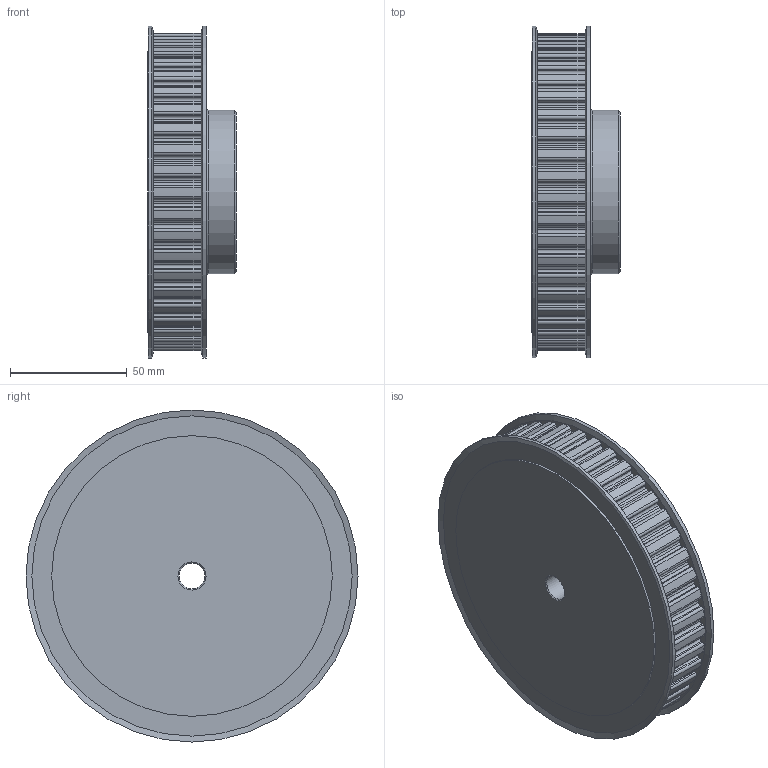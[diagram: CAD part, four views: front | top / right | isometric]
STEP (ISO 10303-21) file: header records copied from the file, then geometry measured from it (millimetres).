
FILE_DESCRIPTION(/* description */ ('PULEGGE 45 L 075 F'),/* implementation_level */ '2;1');
FILE_NAME(/* name */ 'w:\documenti\Disegni dwg\Catalogo\Pulegge\L\075\stp\42075045.stp',/* time_stamp */ '2023-05-18T13:47:14+02:00',/* author */ ('carlo.bersi'),/* organization */ (''),/* preprocessor_version */ 'ST-DEVELOPER v19',/* originating_system */ 'Autodesk Inventor 2023',/* authorisation */ '');
FILE_SCHEMA (('CONFIG_CONTROL_DESIGN'));
Length unit declared in the file: millimetre
Products named in the file (3): 42075045; 42075045_1; 49200081
Assembly tree (3 placements, depth 2):
  42075045
    42075045_1
    49200081  x2
Bounding box: 38 x 142 x 142 mm (x, y, z)
Volume: 401199 mm3; surface area: 65855.7 mm2
Topology: 3 solids, 3 shells, 385 faces, 1121 edges, 745 vertices
Faces by surface type: cylinder 233, plane 144, cone 7, torus 1
Full cylindrical faces by diameter (mm): 11 x1, 70 x1, 120 x4, 142 x2
Entity records: 12907 total; most frequent: DIRECTION 2351, CARTESIAN_POINT 2235, ORIENTED_EDGE 2222, EDGE_CURVE 1111, AXIS2_PLACEMENT_3D 855, VERTEX_POINT 739, LINE 641, VECTOR 641
